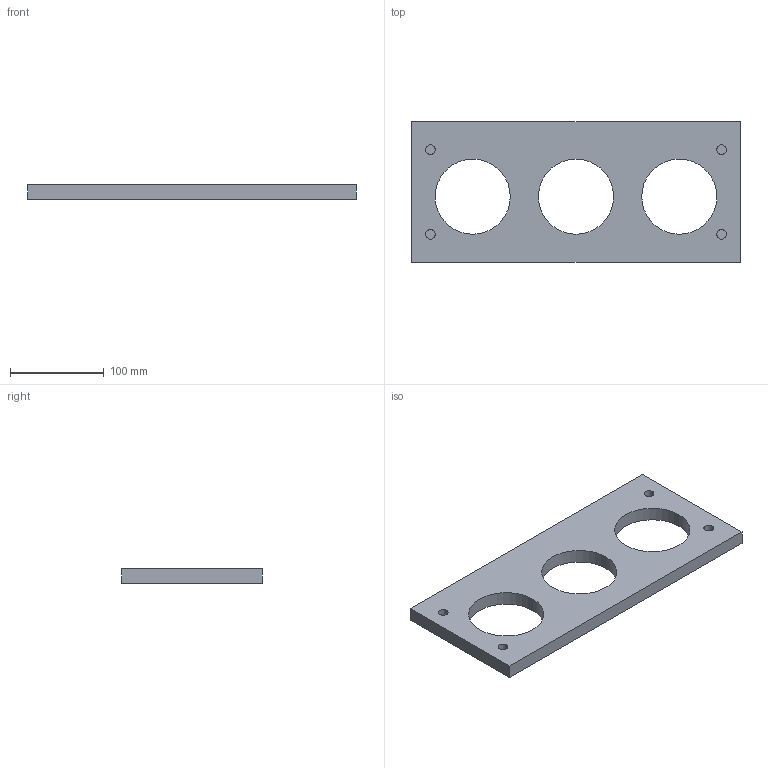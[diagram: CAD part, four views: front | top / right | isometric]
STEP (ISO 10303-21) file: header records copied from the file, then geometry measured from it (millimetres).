
FILE_DESCRIPTION (( 'STEP AP214' ), '1' );
FILE_NAME ('back.STEP', '2018-06-04T17:55:24', ( '' ), ( '' ), 'SwSTEP 2.0', 'SolidWorks 2017', '' );
FILE_SCHEMA (( 'AUTOMOTIVE_DESIGN' ));
Length unit declared in the file: millimetre
Products named in the file (1): back
Bounding box: 350 x 150 x 15 mm (x, y, z)
Volume: 556972.5 mm3; surface area: 102833.1 mm2
Topology: 1 solids, 1 shells, 24 faces, 54 edges, 36 vertices
Faces by surface type: cylinder 14, plane 10
Entity records: 732 total; most frequent: DIRECTION 132, CARTESIAN_POINT 115, ORIENTED_EDGE 108, EDGE_CURVE 54, AXIS2_PLACEMENT_3D 53, VERTEX_POINT 36, EDGE_LOOP 34, CIRCLE 28
